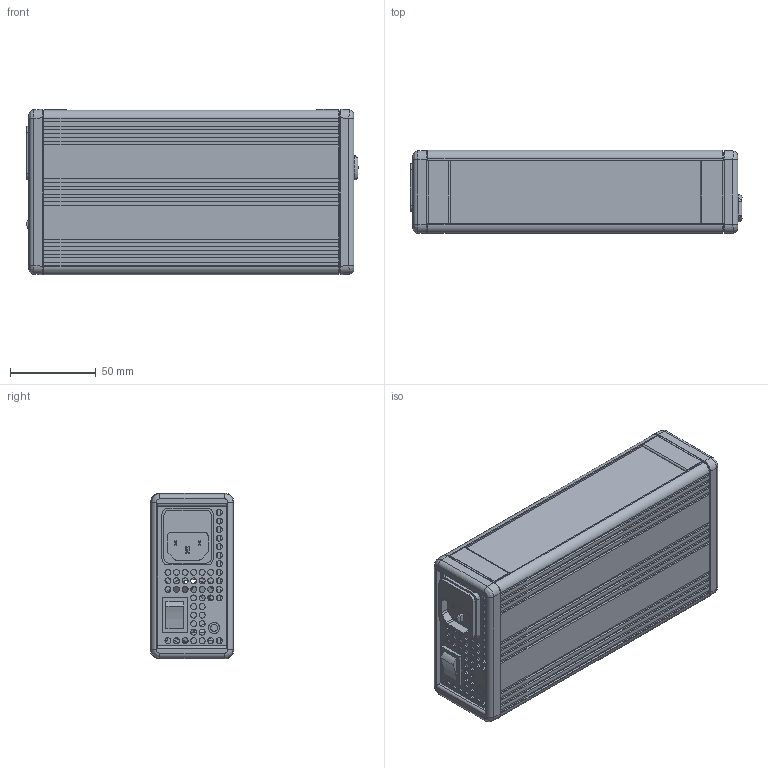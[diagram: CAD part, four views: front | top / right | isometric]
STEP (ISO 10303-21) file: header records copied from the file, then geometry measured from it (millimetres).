
FILE_DESCRIPTION((''),'2;1');
FILE_NAME('C:\Users\shirley\Desktop\pb-230.stp','2020-01-14T18:42:14',('shirley'),(''),'Autodesk Inventor 2010','Autodesk Inventor 2010','');
FILE_SCHEMA(('AUTOMOTIVE_DESIGN { 1 0 10303 214 1 1 1 1 }'));
Length unit declared in the file: millimetre
Products named in the file (37): pb-230; ˋTˋwéK2.2; ˋTˋwéK2; ¨ÃÙÝˆˋ; M3-7L; p2; ¨eÙÝˆˋ; led.1.1.1; hs; case; a1; on; 55; Power_Cord_2KVA; 26D77668-81B1-466B-87E3-FC1E3B3698CD; PCB2; PCB; MSBR; MOS15.5x10.1.1.1.1.1.1.1.1.1.2.1.1; MOS15.5x10.1.1.1.1.1.1.1.1.1.2.1; MOS15.5x10.1.1.1.1.1.1.1.1.1.2; MOS15.5x10.1.1.1.1.1.1.1.1.1; MOS15.5x10.1.1.1.1.1.1.1.1; JS100107; p2_1; p1
Assembly tree (44 placements, depth 3):
  pb-230
    ˋTˋwéK2.2
      ˋTˋwéK2.2
    ˋTˋwéK2
      ˋTˋwéK2.2
    ¨ÃÙÝˆˋ
      M3-7L
      p2
    ¨eÙÝˆˋ
      ¨eÙÝˆˋ
    led.1.1.1
      led.1.1.1
    hs
      hs
    case
      case
    a1
      on
      55
      Power_Cord_2KVA
      26D77668-81B1-466B-87E3-FC1E3B3698CD
      26D77668-81B1-466B-87E3-FC1E3B3698CD
    PCB2
    PCB
      PCB
    MSBR
      MSBR
    MSBR
      MSBR
    MOS15.5x10.1.1.1.1.1.1.1.1.1.2.1.1
      MOS15.5x10.1.1.1.1.1.1.1.1.1.2.1.1
    MOS15.5x10.1.1.1.1.1.1.1.1.1.2.1
      MOS15.5x10.1.1.1.1.1.1.1.1.1.2.1.1
    MOS15.5x10.1.1.1.1.1.1.1.1.1.2
      MOS15.5x10.1.1.1.1.1.1.1.1.1.2.1.1
    MOS15.5x10.1.1.1.1.1.1.1.1.1
      MOS15.5x10.1.1.1.1.1.1.1.1.1.2.1.1
    MOS15.5x10.1.1.1.1.1.1.1.1.1
      MOS15.5x10.1.1.1.1.1.1.1.1.1.2.1.1
    MOS15.5x10.1.1.1.1.1.1.1.1
      MOS15.5x10.1.1.1.1.1.1.1.1.1.2.1.1
    JS100107
      p2_1  x2
      p1
Bounding box: 194.15 x 48.62 x 96.7 mm (x, y, z)
Volume: 211410.8 mm3; surface area: 215835.6 mm2
Topology: 26 solids, 26 shells, 1200 faces, 3142 edges, 2047 vertices
Faces by surface type: plane 794, cylinder 349, cone 23, bspline 19, torus 11, sphere 4
Full cylindrical faces by diameter (mm): 0.927 x18, 1 x2, 1.5 x18, 2.6 x8, 2.65 x4, 3 x4, 3.4 x5, 3.5 x51, 3.7 x6, 3.85 x4, 4 x8, 4.5 x7, 5.5 x1, 6 x1, 6.263 x1, 6.5 x1, 20 x1, 37 x1
Entity records: 32003 total; most frequent: CARTESIAN_POINT 6384, DIRECTION 5138, ORIENTED_EDGE 4866, EDGE_CURVE 2433, AXIS2_PLACEMENT_3D 1716, VECTOR 1706, LINE 1706, VERTEX_POINT 1669
